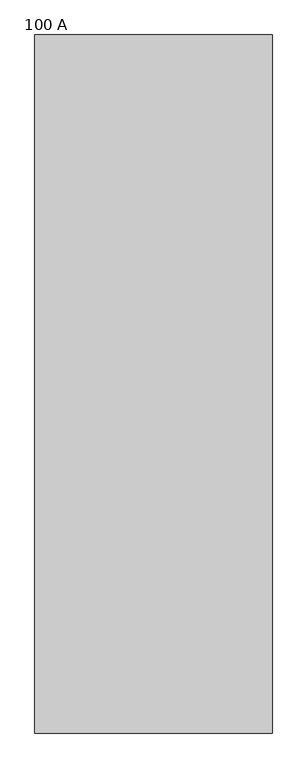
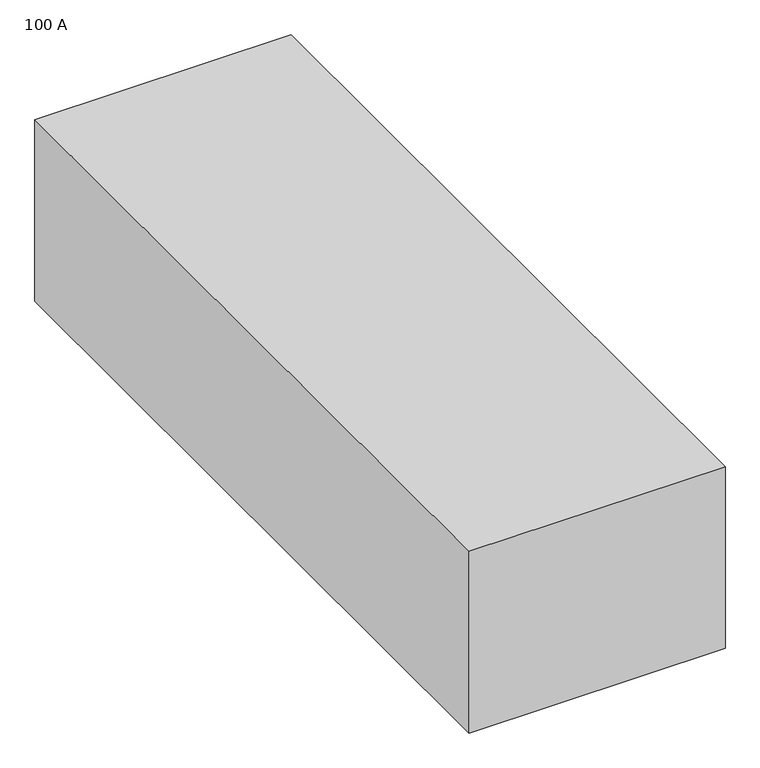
"""IFC4 building model written with IfcOpenShell, lengths in millimetres: proxy geometry, M_燈光與家電用品配電盤 - 208V MCB - 表面 : 100 A."""

from ifc_helpers import new_model, si_unit, origin, origin_with_axes, place, context, project, spatial, polyline, outline, extrude, source, transform, mapped, element, save


def proxy_100_a_aaeb1d20(model_context):
    return source(origin(), model_context, "Body", "SweptSolid", [
        extrude(outline(polyline([(495.2594706, 938.8943297), (495.2594706, -1411.1056703), (-304.7405294, -1411.1056703), (-304.7405294, 938.8943297), (495.2594706, 938.8943297)])), origin_with_axes(), (0.0, 0.0, 1.0), 600.0),
    ])


if __name__ == "__main__":
    model = new_model("IFC4")
    model_context = context("Model", 3, world=origin())
    ifc_project = project(units=[si_unit("LENGTHUNIT", "METRE", prefix="MILLI")], contexts=[model_context])
    site = spatial("IfcSite", under=ifc_project)
    building = spatial("IfcBuilding", under=site)
    placement = place(None, origin())
    proxy_100_a_shape = proxy_100_a_aaeb1d20(model_context)
    element("IfcBuildingElementProxy", 1, Name="M_燈光與家電用品配電盤 - 208V MCB - 表面 : 100 A", ObjectType="M_燈光與家電用品配電盤 - 208V MCB - 表面 : 100 A", at=placement, inside=building, context=model_context, shape_type="MappedRepresentation", body=[
        mapped(proxy_100_a_shape, transform((0.0, 0.0, 0.0), x_axis=(1.0, 0.0, 0.0), y_axis=(0.0, 1.0, 0.0), z_axis=(0.0, 0.0, 1.0))),
    ])
    save(model, "model.ifc")
